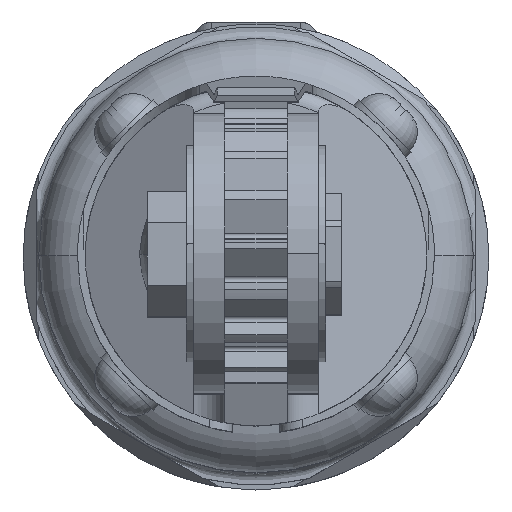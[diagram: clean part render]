
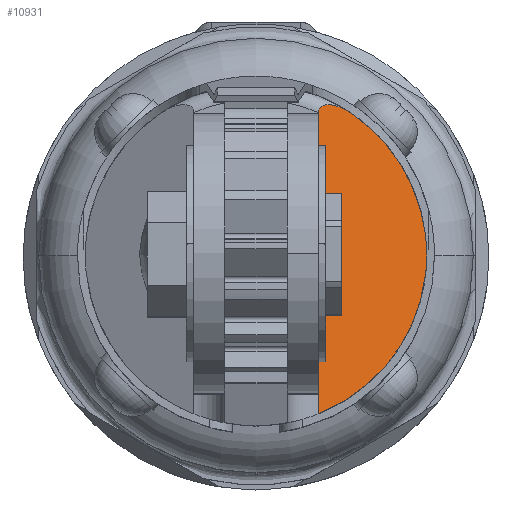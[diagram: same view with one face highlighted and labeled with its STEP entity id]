
A CAD part, top view. The second image highlights one B-rep face of the part: STEP entity #10931.
In plain terms, the highlighted planar face has unit normal (0.447, 0, 0.894).
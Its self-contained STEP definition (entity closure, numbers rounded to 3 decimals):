
#3820 = CARTESIAN_POINT ( 'NONE',  ( 21.876, 2.335, -104.438 ) ) ;
#3821 = CARTESIAN_POINT ( 'NONE',  ( 21.959, 1.559, -104.479 ) ) ;
#3822 = CARTESIAN_POINT ( 'NONE',  ( 22., 0.78, -104.5 ) ) ;
#3823 = CARTESIAN_POINT ( 'NONE',  ( 22., 0., -104.5 ) ) ;
#3824 =( BOUNDED_CURVE ( )  B_SPLINE_CURVE ( 3, ( #3823, #3822, #3821, #3820 ),
 .UNSPECIFIED., .F., .T. ) 
 B_SPLINE_CURVE_WITH_KNOTS ( ( 4, 4 ),
 ( 3.142, 3.248 ),
 .UNSPECIFIED. ) 
 CURVE ( )  GEOMETRIC_REPRESENTATION_ITEM ( )  RATIONAL_B_SPLINE_CURVE ( ( 1., 0.999, 0.999, 1. ) ) 
 REPRESENTATION_ITEM ( '' )  );
#3825 = CARTESIAN_POINT ( 'NONE',  ( 21.876, 2.335, -104.438 ) ) ;
#3826 = CARTESIAN_POINT ( 'NONE',  ( 22., 0., -104.5 ) ) ;
#4934 = CARTESIAN_POINT ( 'NONE',  ( 22., 0., -104.5 ) ) ;
#4935 = CARTESIAN_POINT ( 'NONE',  ( 22., -0.751, -104.5 ) ) ;
#4936 = CARTESIAN_POINT ( 'NONE',  ( 21.962, -1.501, -104.481 ) ) ;
#4937 = CARTESIAN_POINT ( 'NONE',  ( 21.885, -2.248, -104.442 ) ) ;
#4938 =( BOUNDED_CURVE ( )  B_SPLINE_CURVE ( 3, ( #4937, #4936, #4935, #4934 ),
 .UNSPECIFIED., .F., .T. ) 
 B_SPLINE_CURVE_WITH_KNOTS ( ( 4, 4 ),
 ( 3.039, 3.142 ),
 .UNSPECIFIED. ) 
 CURVE ( )  GEOMETRIC_REPRESENTATION_ITEM ( )  RATIONAL_B_SPLINE_CURVE ( ( 1., 0.999, 0.999, 1. ) ) 
 REPRESENTATION_ITEM ( '' )  );
#4939 = CARTESIAN_POINT ( 'NONE',  ( 21.885, -2.248, -104.442 ) ) ;
#5041 = CARTESIAN_POINT ( 'NONE',  ( 8., -20.494, -97.5 ) ) ;
#5042 =( BOUNDED_CURVE ( )  B_SPLINE_CURVE ( 3, ( #5086, #5085, #5084, #5083 ),
 .UNSPECIFIED., .F., .T. ) 
 B_SPLINE_CURVE_WITH_KNOTS ( ( 4, 4 ),
 ( 1.943, 3.039 ),
 .UNSPECIFIED. ) 
 CURVE ( )  GEOMETRIC_REPRESENTATION_ITEM ( )  RATIONAL_B_SPLINE_CURVE ( ( 1., 0.902, 0.902, 1. ) ) 
 REPRESENTATION_ITEM ( '' )  );
#5083 = CARTESIAN_POINT ( 'NONE',  ( 21.885, -2.248, -104.442 ) ) ;
#5084 = CARTESIAN_POINT ( 'NONE',  ( 21.019, -10.674, -104.01 ) ) ;
#5085 = CARTESIAN_POINT ( 'NONE',  ( 15.89, -17.414, -101.445 ) ) ;
#5086 = CARTESIAN_POINT ( 'NONE',  ( 8., -20.494, -97.5 ) ) ;
#5215 = CARTESIAN_POINT ( 'NONE',  ( 8., 18.33, -97.5 ) ) ;
#5244 = CARTESIAN_POINT ( 'NONE',  ( 8., 11., -97.5 ) ) ;
#5305 = DIRECTION ( 'NONE',  ( 0., -1., 0. ) ) ;
#5306 = VECTOR ( 'NONE', #5305, 1000. ) ;
#5307 = CARTESIAN_POINT ( 'NONE',  ( 8., 0., -97.5 ) ) ;
#5308 = LINE ( 'NONE', #5307, #5306 ) ;
#5646 = B_SPLINE_CURVE_WITH_KNOTS ( 'NONE', 3,
 ( #5651, #5650, #5649, #5648, #5647, #5696, #5695, #5694, #5693, #5692, #5691, #5690, #5689, #5688, #5687, #5686, #5685, #5684 ),
 .UNSPECIFIED., .F., .F.,
 ( 4, 2, 2, 2, 2, 2, 2, 2, 4 ),
 ( 0., 0.001, 0.003, 0.003, 0.004, 0.004, 0.004, 0.005, 0.005 ),
 .UNSPECIFIED. ) ;
#5647 = CARTESIAN_POINT ( 'NONE',  ( 10.228, 19.264, -98.614 ) ) ;
#5648 = CARTESIAN_POINT ( 'NONE',  ( 10.604, 19.147, -98.802 ) ) ;
#5649 = CARTESIAN_POINT ( 'NONE',  ( 11.321, 18.844, -99.16 ) ) ;
#5650 = CARTESIAN_POINT ( 'NONE',  ( 11.666, 18.656, -99.333 ) ) ;
#5651 = CARTESIAN_POINT ( 'NONE',  ( 12., 18.439, -99.5 ) ) ;
#5652 = CARTESIAN_POINT ( 'NONE',  ( 12., 18.439, -99.5 ) ) ;
#5653 = CARTESIAN_POINT ( 'NONE',  ( 17.642, 14.767, -102.321 ) ) ;
#5654 = CARTESIAN_POINT ( 'NONE',  ( 21.161, 9.029, -104.081 ) ) ;
#5655 = CARTESIAN_POINT ( 'NONE',  ( 21.876, 2.335, -104.438 ) ) ;
#5656 =( BOUNDED_CURVE ( )  B_SPLINE_CURVE ( 3, ( #5655, #5654, #5653, #5652 ),
 .UNSPECIFIED., .F., .T. ) 
 B_SPLINE_CURVE_WITH_KNOTS ( ( 4, 4 ),
 ( 3.248, 4.135 ),
 .UNSPECIFIED. ) 
 CURVE ( )  GEOMETRIC_REPRESENTATION_ITEM ( )  RATIONAL_B_SPLINE_CURVE ( ( 1., 0.935, 0.935, 1. ) ) 
 REPRESENTATION_ITEM ( '' )  );
#5657 = CARTESIAN_POINT ( 'NONE',  ( 12., 18.439, -99.5 ) ) ;
#5675 = FACE_OUTER_BOUND ( 'NONE', #10932, .T. ) ;
#5684 = CARTESIAN_POINT ( 'NONE',  ( 8., 18.33, -97.5 ) ) ;
#5685 = CARTESIAN_POINT ( 'NONE',  ( 8., 18.44, -97.5 ) ) ;
#5686 = CARTESIAN_POINT ( 'NONE',  ( 8.015, 18.549, -97.508 ) ) ;
#5687 = CARTESIAN_POINT ( 'NONE',  ( 8.084, 18.754, -97.542 ) ) ;
#5688 = CARTESIAN_POINT ( 'NONE',  ( 8.137, 18.848, -97.568 ) ) ;
#5689 = CARTESIAN_POINT ( 'NONE',  ( 8.269, 19.008, -97.634 ) ) ;
#5690 = CARTESIAN_POINT ( 'NONE',  ( 8.346, 19.073, -97.673 ) ) ;
#5691 = CARTESIAN_POINT ( 'NONE',  ( 8.516, 19.182, -97.758 ) ) ;
#5692 = CARTESIAN_POINT ( 'NONE',  ( 8.606, 19.223, -97.803 ) ) ;
#5693 = CARTESIAN_POINT ( 'NONE',  ( 8.886, 19.321, -97.943 ) ) ;
#5694 = CARTESIAN_POINT ( 'NONE',  ( 9.076, 19.349, -98.038 ) ) ;
#5695 = CARTESIAN_POINT ( 'NONE',  ( 9.459, 19.364, -98.23 ) ) ;
#5696 = CARTESIAN_POINT ( 'NONE',  ( 9.654, 19.35, -98.327 ) ) ;
#5699 = DIRECTION ( 'NONE',  ( 0., -1., 0. ) ) ;
#5700 = VECTOR ( 'NONE', #5699, 1000. ) ;
#5701 = CARTESIAN_POINT ( 'NONE',  ( 8., 0., -97.5 ) ) ;
#5702 = LINE ( 'NONE', #5701, #5700 ) ;
#5725 = DIRECTION ( 'NONE',  ( -0.894, 0., 0.447 ) ) ;
#5726 = DIRECTION ( 'NONE',  ( -0.447, 0., -0.894 ) ) ;
#5727 = CARTESIAN_POINT ( 'NONE',  ( 4., -22., -95.5 ) ) ;
#5728 = AXIS2_PLACEMENT_3D ( 'NONE', #5727, #5726, #5725 ) ;
#5729 = PLANE ( 'NONE',  #5728 ) ;
#10063 = EDGE_CURVE ( 'NONE', #10064, #10065, #3824, .T. ) ;
#10064 = VERTEX_POINT ( 'NONE', #3826 ) ;
#10065 = VERTEX_POINT ( 'NONE', #3825 ) ;
#10554 = EDGE_CURVE ( 'NONE', #10555, #10064, #4938, .T. ) ;
#10555 = VERTEX_POINT ( 'NONE', #4939 ) ;
#10587 = EDGE_CURVE ( 'NONE', #10588, #10555, #5042, .T. ) ;
#10588 = VERTEX_POINT ( 'NONE', #5041 ) ;
#10665 = VERTEX_POINT ( 'NONE', #5215 ) ;
#10683 = VERTEX_POINT ( 'NONE', #5244 ) ;
#10723 = EDGE_CURVE ( 'NONE', #10665, #10683, #5308, .T. ) ;
#10911 = ORIENTED_EDGE ( 'NONE', *, *, #10912, .T. ) ;
#10912 = EDGE_CURVE ( 'NONE', #10065, #10913, #5656, .T. ) ;
#10913 = VERTEX_POINT ( 'NONE', #5657 ) ;
#10914 = ORIENTED_EDGE ( 'NONE', *, *, #10915, .T. ) ;
#10915 = EDGE_CURVE ( 'NONE', #10913, #10665, #5646, .T. ) ;
#10916 = ORIENTED_EDGE ( 'NONE', *, *, #10723, .T. ) ;
#10917 = ORIENTED_EDGE ( 'NONE', *, *, #10918, .T. ) ;
#10918 = EDGE_CURVE ( 'NONE', #10683, #10588, #5702, .T. ) ;
#10931 = ADVANCED_FACE ( 'NONE', ( #5675 ), #5729, .F. ) ;
#10932 = EDGE_LOOP ( 'NONE', ( #10933, #10934, #10935, #10911, #10914, #10916, #10917 ) ) ;
#10933 = ORIENTED_EDGE ( 'NONE', *, *, #10587, .T. ) ;
#10934 = ORIENTED_EDGE ( 'NONE', *, *, #10554, .T. ) ;
#10935 = ORIENTED_EDGE ( 'NONE', *, *, #10063, .T. ) ;
